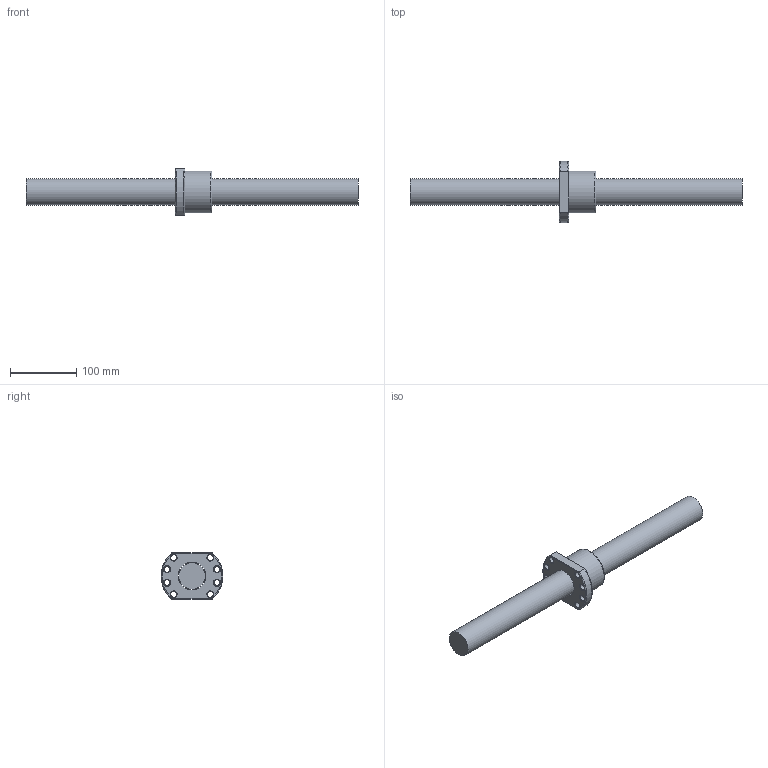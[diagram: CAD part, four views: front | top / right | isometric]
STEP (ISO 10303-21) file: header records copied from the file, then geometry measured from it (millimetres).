
FILE_DESCRIPTION (( 'STEP AP203' ), '1' );
FILE_NAME ('SFNU04005D-4.step', '2024-05-14T06:34:40', ( '' ), ( '' ), 'SwSTEP 2.0', 'SolidWorks 2022', '' );
FILE_SCHEMA (( 'CONFIG_CONTROL_DESIGN' ));
Length unit declared in the file: millimetre
Products named in the file (1): SFNU04005D-4
Bounding box: 500 x 93 x 70 mm (x, y, z)
Volume: 752969.6 mm3; surface area: 95484.6 mm2
Topology: 2 solids, 2 shells, 58 faces, 149 edges, 96 vertices
Faces by surface type: cylinder 20, cone 17, plane 12, torus 5, bspline 4
Full cylindrical faces by diameter (mm): 4 x1, 7 x5, 9 x8, 40 x1, 42.1 x1, 63 x1
Entity records: 3286 total; most frequent: CARTESIAN_POINT 2124, DIRECTION 214, ORIENTED_EDGE 182, EDGE_LOOP 106, AXIS2_PLACEMENT_3D 99, EDGE_CURVE 91, VERTEX_POINT 75, FACE_OUTER_BOUND 68
